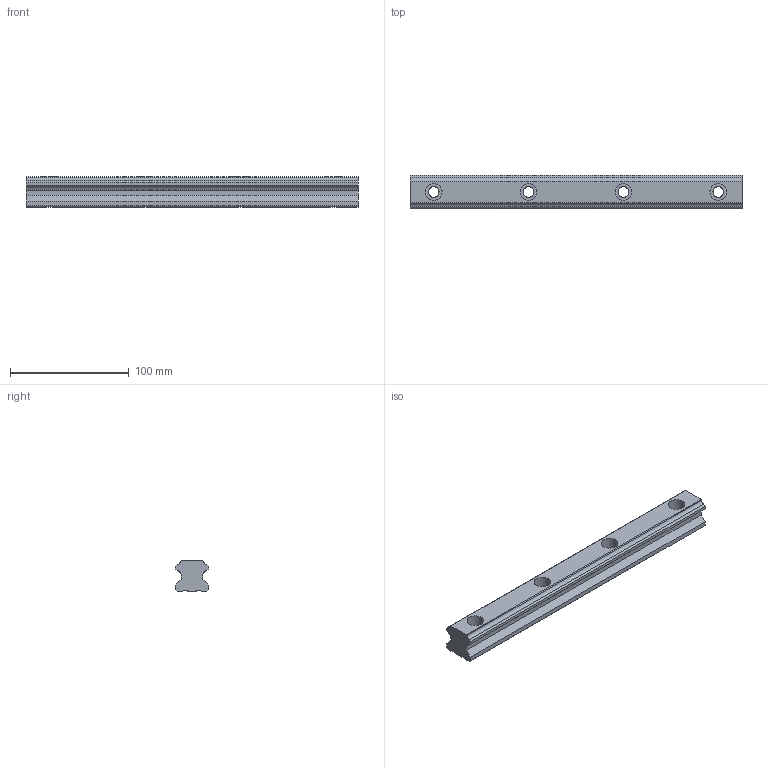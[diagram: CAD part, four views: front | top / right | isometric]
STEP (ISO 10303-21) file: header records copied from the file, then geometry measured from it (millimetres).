
FILE_DESCRIPTION(('starvars output'),'2;1');
FILE_NAME('cv20190626220203000039633.stp','22:02:03 2019/06/26',( 'Thomas Industrial Network Germany GmbH'),( 'Thomas Industrial Network Germany GmbH'),'unknown preprocess','ACIS' ,'unknown authorization');
FILE_SCHEMA(('CONFIG_CONTROL_DESIGN {UNKNOWN IMPLEMENTATION LEVEL}'));
Length unit declared in the file: millimetre
Products named in the file (1): PRODUCT_ID_1
Bounding box: 280 x 28 x 26 mm (x, y, z)
Volume: 158830.9 mm3; surface area: 35423.2 mm2
Topology: 1 solids, 1 shells, 66 faces, 192 edges, 128 vertices
Faces by surface type: plane 46, cylinder 20
Entity records: 1985 total; most frequent: ORIENTED_EDGE 384, CARTESIAN_POINT 318, DIRECTION 276, EDGE_CURVE 192, VERTEX_POINT 128, VECTOR 104, LINE 104, AXIS2_PLACEMENT_3D 86
